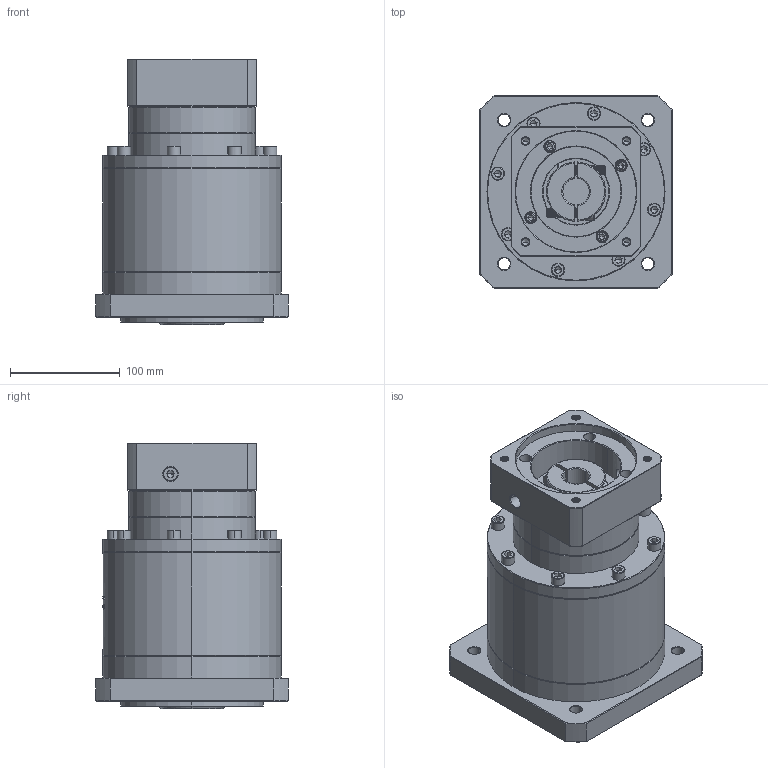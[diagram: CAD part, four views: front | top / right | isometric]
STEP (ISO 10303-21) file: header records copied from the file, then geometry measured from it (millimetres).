
FILE_DESCRIPTION (( 'STEP AP214' ), '1' );
FILE_NAME ('ZF160-K35-L3-24-110-130-M8.step', '2023-03-22T04:00:23', ( '' ), ( '' ), 'SwSTEP 2.0', 'SolidWorks 2016', '' );
FILE_SCHEMA (( 'AUTOMOTIVE_DESIGN' ));
Length unit declared in the file: millimetre
Products named in the file (1): ZF160-K35-L3-24-110-130-M8
Bounding box: 175 x 175 x 241.7 mm (x, y, z)
Volume: 4032285 mm3; surface area: 275373.1 mm2
Topology: 6 solids, 6 shells, 1798 faces, 4521 edges, 2848 vertices
Faces by surface type: plane 739, cylinder 447, cone 351, bspline 205, torus 56
Entity records: 92469 total; most frequent: CARTESIAN_POINT 31693, ORIENTED_EDGE 8938, DIRECTION 7908, EDGE_CURVE 4469, VERTEX_POINT 2848, AXIS2_PLACEMENT_3D 2735, VECTOR 2438, LINE 2438
